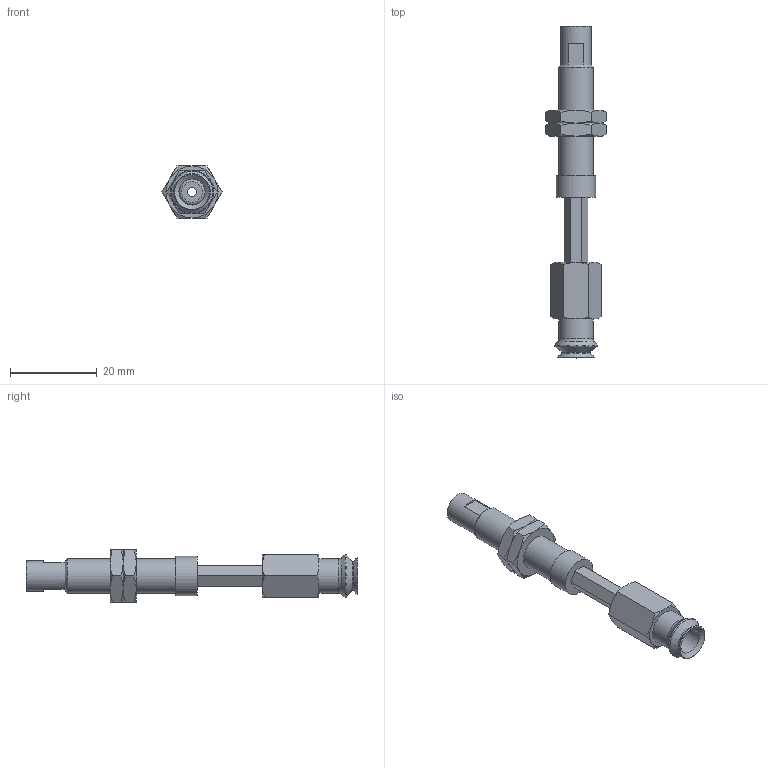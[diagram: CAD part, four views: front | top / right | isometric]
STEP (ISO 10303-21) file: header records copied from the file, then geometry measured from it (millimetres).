
FILE_DESCRIPTION(('STEP AP203'),'1');
FILE_NAME('.stp','2025-08-27T06:28:35',(' '),(' '),'Spatial InterOp 3D',' ',' ');
FILE_SCHEMA(('CONFIG_CONTROL_DESIGN'));
Length unit declared in the file: millimetre
Products named in the file (6): BNABPJTH-8-15-※; ADAPTER; NAPATH-10A-15--M; NAPJH-8-15-NUT; NAPJTH-8-15-FBODY; BPJG-8-※
Assembly tree (6 placements, depth 2):
  BNABPJTH-8-15-※
    ADAPTER
    NAPATH-10A-15--M
    NAPJH-8-15-NUT  x2
    NAPJTH-8-15-FBODY
    BPJG-8-※
Bounding box: 13.86 x 76.5 x 12 mm (x, y, z)
Volume: 3888.7 mm3; surface area: 4714.3 mm2
Topology: 6 solids, 6 shells, 120 faces, 260 edges, 157 vertices
Faces by surface type: plane 51, cone 47, cylinder 13, torus 9
Full cylindrical faces by diameter (mm): 2 x2, 4 x2, 4.134 x1, 6 x2, 7 x1, 7.188 x2, 8 x2, 9 x1
Entity records: 2920 total; most frequent: CARTESIAN_POINT 688, DIRECTION 402, ORIENTED_EDGE 348, EDGE_CURVE 174, AXIS2_PLACEMENT_3D 172, EDGE_LOOP 142, VERTEX_POINT 122, FACE_OUTER_BOUND 118
